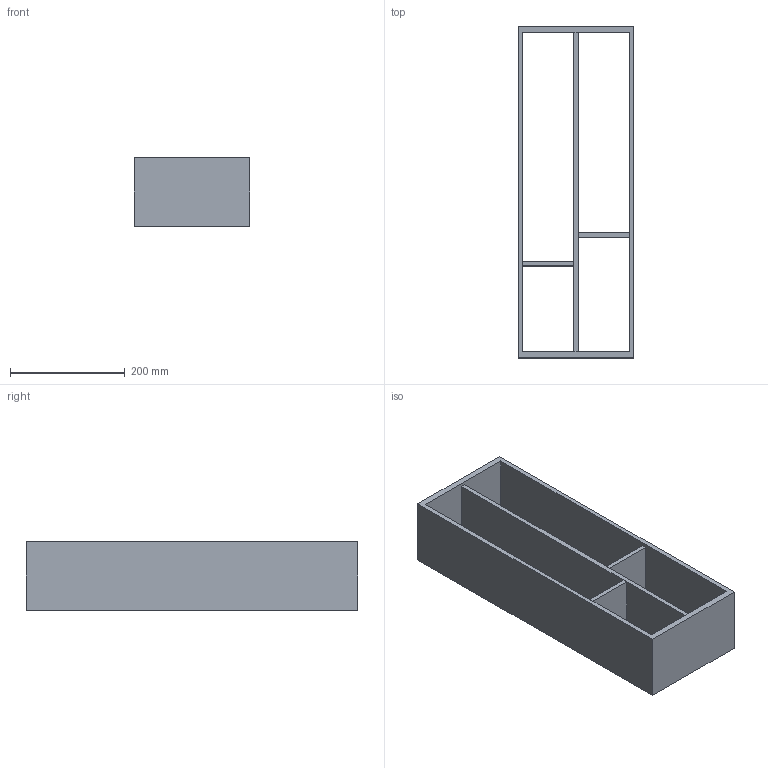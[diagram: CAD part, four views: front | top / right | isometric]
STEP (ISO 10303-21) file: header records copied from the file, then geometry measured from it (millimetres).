
FILE_DESCRIPTION (( 'STEP AP214' ), '1' );
FILE_NAME ('Vario Multi H120 NL600_B300_19 mm_Alu-Alu.step', '2010-10-08T09:48:12', ( 'grass' ), ( '' ), 'SwSTEP 2.0', 'SolidWorks 2010', '' );
FILE_SCHEMA (( 'AUTOMOTIVE_DESIGN' ));
Length unit declared in the file: millimetre
Products named in the file (1): Vario Multi H120 NL600_B300_19 mm_Alu-Alu
Bounding box: 202 x 579 x 120 mm (x, y, z)
Volume: 2272952.7 mm3; surface area: 566319.3 mm2
Topology: 1 solids, 1 shells, 22 faces, 60 edges, 40 vertices
Faces by surface type: plane 22
Entity records: 734 total; most frequent: CARTESIAN_POINT 123, ORIENTED_EDGE 120, DIRECTION 106, EDGE_CURVE 60, VECTOR 60, LINE 60, VERTEX_POINT 40, EDGE_LOOP 30
